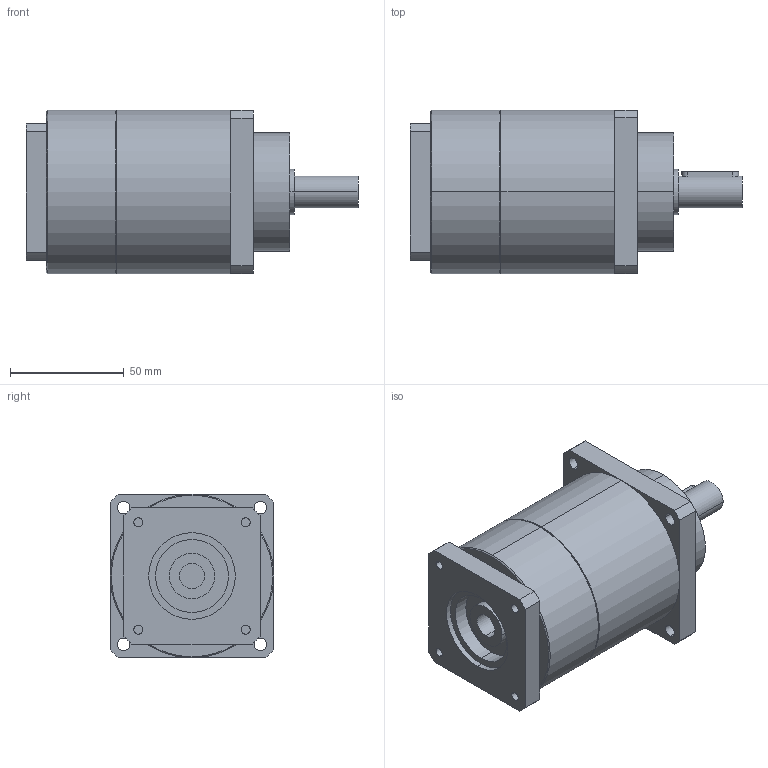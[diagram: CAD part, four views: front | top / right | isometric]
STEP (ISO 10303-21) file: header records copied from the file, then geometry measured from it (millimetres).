
FILE_DESCRIPTION(('CoCreate Modeling STEP Export'),'2;1');
FILE_NAME('GPT75_ig-9-12-16-20-25-28-35-40-50-70-100_14_B5T_11_P28.stp','2014-08-27T13:34:46',(''),(''),'CoCreate Modeling STEP processor for AP214 (Solid Model)','CoCreate Modeling 16.00C 25-Feb-2009 (C) Parametric Technology GmbH','');
FILE_SCHEMA(('AUTOMOTIVE_DESIGN { 1 0 10303 214 1 1 1 1 }'));
Length unit declared in the file: millimetre
Products named in the file (2): GPT75_ig-9-12-16-20-25-28-35-40-50-70-100_14_B5T_11_P28
Assembly tree (1 placements, depth 2):
  GPT75_ig-9-12-16-20-25-28-35-40-50-70-100_14_B5T_11_P28
    GPT75_ig-9-12-16-20-25-28-35-40-50-70-100_14_B5T_11_P28
Bounding box: 146 x 72 x 72 mm (x, y, z)
Volume: 441039.5 mm3; surface area: 41505.2 mm2
Topology: 1 solids, 1 shells, 88 faces, 210 edges, 137 vertices
Faces by surface type: cylinder 46, plane 38, cone 4
Entity records: 2592 total; most frequent: CARTESIAN_POINT 732, ORIENTED_EDGE 420, DIRECTION 326, EDGE_CURVE 210, VERTEX_POINT 137, AXIS2_PLACEMENT_3D 119, EDGE_LOOP 109, VECTOR 88
